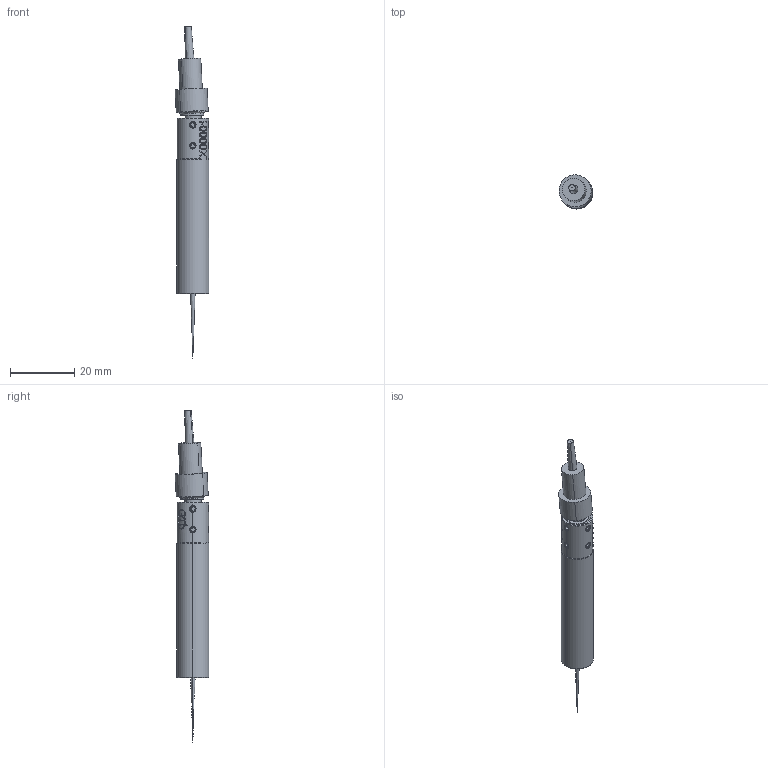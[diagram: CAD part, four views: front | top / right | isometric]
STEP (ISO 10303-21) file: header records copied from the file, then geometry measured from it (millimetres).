
FILE_DESCRIPTION (( 'STEP AP203' ), '1' );
FILE_NAME ('7111204.000-AA IMP-DS19 Interferometrischer Wegsensor_STEP.STEP', '2020-07-23T09:52:56', ( '' ), ( '' ), 'SwSTEP 2.0', 'SolidWorks 2018', '' );
FILE_SCHEMA (( 'CONFIG_CONTROL_DESIGN' ));
Length unit declared in the file: millimetre
Products named in the file (2): 7111204.000-AA  IMP-DS19 Interferometrischer Wegsensor_STEP
Bounding box: 10.52 x 10.52 x 103.43 mm (x, y, z)
Volume: 5254.4 mm3; surface area: 3156.7 mm2
Topology: 3 solids, 5 shells, 383 faces, 957 edges, 619 vertices
Faces by surface type: bspline 129, plane 122, cylinder 70, cone 60, torus 2
Entity records: 24197 total; most frequent: CARTESIAN_POINT 16081, ORIENTED_EDGE 1910, DIRECTION 1182, EDGE_CURVE 955, VERTEX_POINT 619, B_SPLINE_CURVE_WITH_KNOTS 448, AXIS2_PLACEMENT_3D 438, EDGE_LOOP 422
